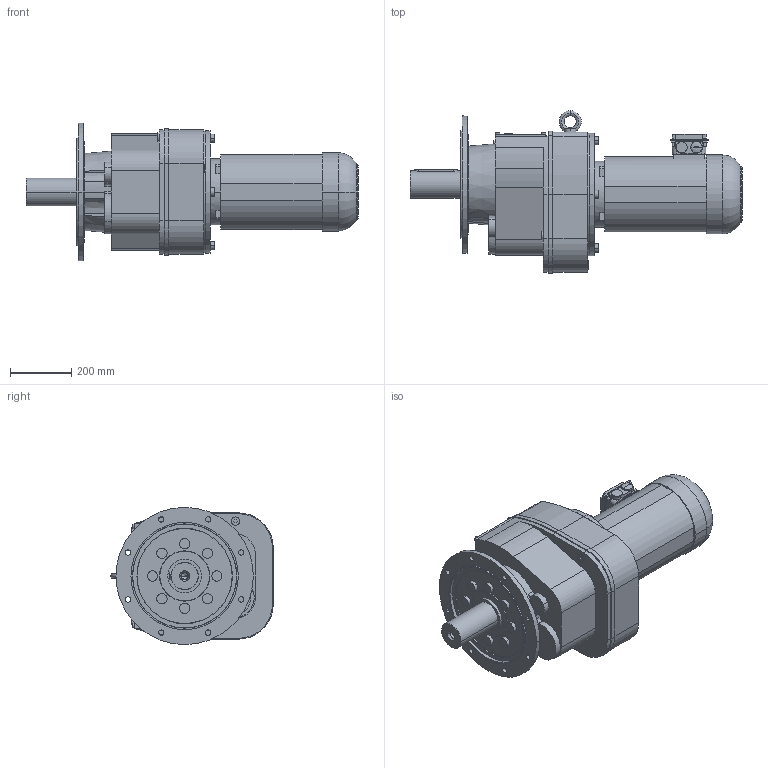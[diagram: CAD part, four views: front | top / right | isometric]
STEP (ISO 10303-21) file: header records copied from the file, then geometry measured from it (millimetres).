
FILE_DESCRIPTION(('STEP AP214'),'1');
FILE_NAME('STEP-File.stp','2018-01-01T00:00:00',(' '),('KEB'),' ','KEB-DRIVE',' ');
FILE_SCHEMA(('AUTOMOTIVE_DESIGN { 1 0 10303 214 1 1 1 1 }'));
Length unit declared in the file: millimetre
Products named in the file (10): g8b; w8_we_90x170; c8_450; ca8; dm132_kkn; kk10; PLUG_M32; SCREW-PLUG_M32; ndm132; G83C DM132MB4§CAD13
Assembly tree (9 placements, depth 2):
  G83C DM132MB4§CAD13
    g8b
    w8_we_90x170
    c8_450
    ca8
    dm132_kkn
    kk10
    PLUG_M32
    SCREW-PLUG_M32
    ndm132
Bounding box: 1083 x 530 x 447.93 mm (x, y, z)
Volume: 81039412.9 mm3; surface area: 2261030.3 mm2
Topology: 9 solids, 9 shells, 389 faces, 953 edges, 630 vertices
Faces by surface type: plane 205, cylinder 138, cone 26, torus 16, bspline 4
Entity records: 14726 total; most frequent: CARTESIAN_POINT 5618, ORIENTED_EDGE 1902, DIRECTION 1706, EDGE_CURVE 951, VERTEX_POINT 630, AXIS2_PLACEMENT_3D 595, VECTOR 516, LINE 516
